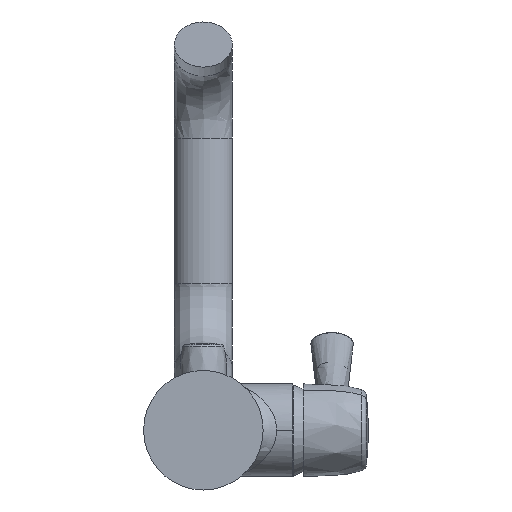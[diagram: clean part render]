
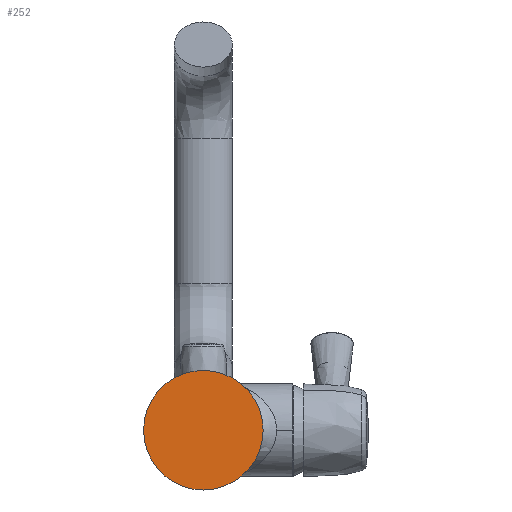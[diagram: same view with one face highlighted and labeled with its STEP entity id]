
A CAD part, front view. The second image highlights one B-rep face of the part: STEP entity #252.
In plain terms, the highlighted planar face has unit normal (0, -1, 0).
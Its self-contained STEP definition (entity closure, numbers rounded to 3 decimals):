
#252 = ADVANCED_FACE ( 'NONE', ( #5948 ), #8781, .F. ) ;
#579 = EDGE_CURVE ( 'NONE', #1748, #6964, #1375, .T. ) ;
#1061 = EDGE_LOOP ( 'NONE', ( #1533, #4399 ) ) ;
#1375 = CIRCLE ( 'NONE', #7443, 31. ) ;
#1533 = ORIENTED_EDGE ( 'NONE', *, *, #579, .F. ) ;
#1748 = VERTEX_POINT ( 'NONE', #7157 ) ;
#2070 = CARTESIAN_POINT ( 'NONE',  ( 0., -0.3, 0. ) ) ;
#2868 = DIRECTION ( 'NONE',  ( 0., 1., 0. ) ) ;
#2888 = DIRECTION ( 'NONE',  ( 1., 0., 0. ) ) ;
#3104 = AXIS2_PLACEMENT_3D ( 'NONE', #3925, #9601, #4743 ) ;
#3925 = CARTESIAN_POINT ( 'NONE',  ( 0., -0.3, 0. ) ) ;
#4399 = ORIENTED_EDGE ( 'NONE', *, *, #7356, .F. ) ;
#4743 = DIRECTION ( 'NONE',  ( 1., 0., 0. ) ) ;
#5948 = FACE_OUTER_BOUND ( 'NONE', #1061, .T. ) ;
#6964 = VERTEX_POINT ( 'NONE', #8236 ) ;
#7157 = CARTESIAN_POINT ( 'NONE',  ( 31., -0.3, 0. ) ) ;
#7356 = EDGE_CURVE ( 'NONE', #6964, #1748, #10469, .T. ) ;
#7443 = AXIS2_PLACEMENT_3D ( 'NONE', #2070, #7746, #2888 ) ;
#7726 = CARTESIAN_POINT ( 'NONE',  ( 0., -0.3, 0. ) ) ;
#7746 = DIRECTION ( 'NONE',  ( 0., 1., 0. ) ) ;
#8236 = CARTESIAN_POINT ( 'NONE',  ( -31., -0.3, 0. ) ) ;
#8546 = DIRECTION ( 'NONE',  ( 1., 0., 0. ) ) ;
#8781 = PLANE ( 'NONE',  #3104 ) ;
#9601 = DIRECTION ( 'NONE',  ( 0., 1., 0. ) ) ;
#10469 = CIRCLE ( 'NONE', #10494, 31. ) ;
#10494 = AXIS2_PLACEMENT_3D ( 'NONE', #7726, #2868, #8546 ) ;
